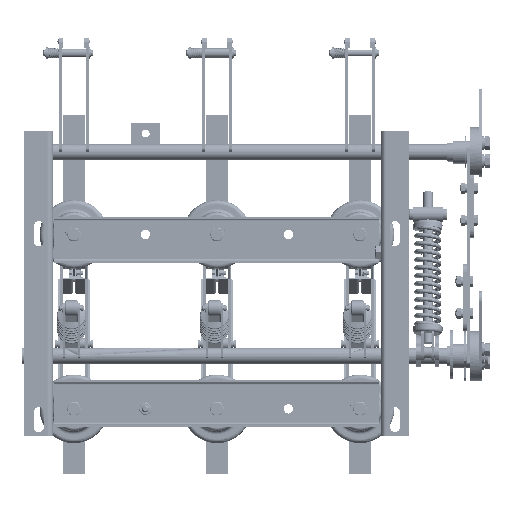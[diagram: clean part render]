
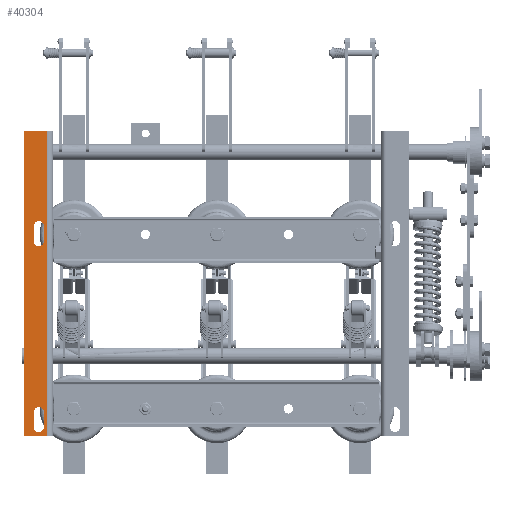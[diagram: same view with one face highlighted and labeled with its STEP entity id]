
A CAD part, front view. The second image highlights one B-rep face of the part: STEP entity #40304.
In plain terms, the highlighted planar face has unit normal (0, -1, 0).
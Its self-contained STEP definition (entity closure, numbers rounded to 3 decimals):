
#1997 = ORIENTED_EDGE ( 'NONE', *, *, #12046, .T. ) ;
#2549 = AXIS2_PLACEMENT_3D ( 'NONE', #138480, #48820, #153598 ) ;
#7519 = VECTOR ( 'NONE', #44383, 1000. ) ;
#9610 = CARTESIAN_POINT ( 'NONE',  ( -104.6, 0.004, -153.1 ) ) ;
#10526 = DIRECTION ( 'NONE',  ( 0., 0., 1. ) ) ;
#10843 = VECTOR ( 'NONE', #76062, 1000. ) ;
#10917 = DIRECTION ( 'NONE',  ( 0., 0., 1. ) ) ;
#12046 = EDGE_CURVE ( 'NONE', #80243, #89308, #162239, .T. ) ;
#12184 = EDGE_CURVE ( 'NONE', #64827, #122470, #183370, .T. ) ;
#13726 = ORIENTED_EDGE ( 'NONE', *, *, #152129, .T. ) ;
#14241 = AXIS2_PLACEMENT_3D ( 'NONE', #118959, #29276, #134088 ) ;
#15567 = LINE ( 'NONE', #16376, #10843 ) ;
#16376 = CARTESIAN_POINT ( 'NONE',  ( -236.999, 0.004, 274. ) ) ;
#18518 = EDGE_CURVE ( 'NONE', #144727, #115698, #187757, .T. ) ;
#18857 = VERTEX_POINT ( 'NONE', #50163 ) ;
#19418 = CARTESIAN_POINT ( 'NONE',  ( -255.999, 0.004, -140.5 ) ) ;
#20605 = DIRECTION ( 'NONE',  ( 0., 1., 0. ) ) ;
#21325 = DIRECTION ( 'NONE',  ( 0., 1., 0. ) ) ;
#24078 = FACE_BOUND ( 'NONE', #62127, .T. ) ;
#25157 = ORIENTED_EDGE ( 'NONE', *, *, #192260, .T. ) ;
#27502 = AXIS2_PLACEMENT_3D ( 'NONE', #58415, #163124, #73485 ) ;
#27683 = CIRCLE ( 'NONE', #27502, 7. ) ;
#29018 = ORIENTED_EDGE ( 'NONE', *, *, #102109, .T. ) ;
#29276 = DIRECTION ( 'NONE',  ( 0., -1., 0. ) ) ;
#29316 = DIRECTION ( 'NONE',  ( 0., 0., -1. ) ) ;
#33651 = ORIENTED_EDGE ( 'NONE', *, *, #107412, .T. ) ;
#36954 = EDGE_CURVE ( 'NONE', #89308, #44740, #27683, .T. ) ;
#37198 = ORIENTED_EDGE ( 'NONE', *, *, #36954, .T. ) ;
#39129 = VERTEX_POINT ( 'NONE', #89389 ) ;
#40304 = ADVANCED_FACE ( 'NONE', ( #24078, #178838, #138952 ), #133418, .T. ) ;
#41809 = VECTOR ( 'NONE', #194672, 1000. ) ;
#44383 = DIRECTION ( 'NONE',  ( 0., 0., 1. ) ) ;
#44740 = VERTEX_POINT ( 'NONE', #152781 ) ;
#46411 = EDGE_LOOP ( 'NONE', ( #48928, #135551, #95734, #144766 ) ) ;
#47788 = LINE ( 'NONE', #53162, #122711 ) ;
#48820 = DIRECTION ( 'NONE',  ( 0., 1., 0. ) ) ;
#48928 = ORIENTED_EDGE ( 'NONE', *, *, #12184, .T. ) ;
#50163 = CARTESIAN_POINT ( 'NONE',  ( -241.999, 0.004, 140.5 ) ) ;
#53162 = CARTESIAN_POINT ( 'NONE',  ( -241.999, 0.004, -20. ) ) ;
#56863 = VERTEX_POINT ( 'NONE', #139527 ) ;
#57785 = VECTOR ( 'NONE', #29316, 1000. ) ;
#58415 = CARTESIAN_POINT ( 'NONE',  ( -248.999, 0.004, -119.5 ) ) ;
#58852 = LINE ( 'NONE', #175634, #138446 ) ;
#62127 = EDGE_LOOP ( 'NONE', ( #29018, #1997, #37198, #13726 ) ) ;
#64827 = VERTEX_POINT ( 'NONE', #82914 ) ;
#69551 = CARTESIAN_POINT ( 'NONE',  ( -255.999, 0.004, 119.5 ) ) ;
#70371 = LINE ( 'NONE', #174726, #110116 ) ;
#72873 = VECTOR ( 'NONE', #114465, 1000. ) ;
#73485 = DIRECTION ( 'NONE',  ( -1., 0., 0. ) ) ;
#76062 = DIRECTION ( 'NONE',  ( -1., 0., 0. ) ) ;
#80243 = VERTEX_POINT ( 'NONE', #19418 ) ;
#82914 = CARTESIAN_POINT ( 'NONE',  ( -241.999, 0.004, 119.5 ) ) ;
#85215 = ORIENTED_EDGE ( 'NONE', *, *, #18518, .T. ) ;
#89308 = VERTEX_POINT ( 'NONE', #172771 ) ;
#89389 = CARTESIAN_POINT ( 'NONE',  ( -255.999, 0.004, 140.5 ) ) ;
#89403 = EDGE_CURVE ( 'NONE', #144727, #118094, #70371, .T. ) ;
#95734 = ORIENTED_EDGE ( 'NONE', *, *, #172346, .T. ) ;
#98948 = DIRECTION ( 'NONE',  ( 0., 0., -1. ) ) ;
#102109 = EDGE_CURVE ( 'NONE', #56863, #80243, #152697, .T. ) ;
#107412 = EDGE_CURVE ( 'NONE', #147278, #118094, #15567, .T. ) ;
#108650 = ORIENTED_EDGE ( 'NONE', *, *, #89403, .F. ) ;
#110116 = VECTOR ( 'NONE', #10917, 1000. ) ;
#110358 = CARTESIAN_POINT ( 'NONE',  ( -248.999, 0.004, -140.5 ) ) ;
#111105 = CARTESIAN_POINT ( 'NONE',  ( -248.999, 0.004, 119.5 ) ) ;
#111309 = CARTESIAN_POINT ( 'NONE',  ( -269.202, 0.004, -153.1 ) ) ;
#111994 = CARTESIAN_POINT ( 'NONE',  ( -269.202, 0.004, 274. ) ) ;
#114465 = DIRECTION ( 'NONE',  ( 1., 0., 0. ) ) ;
#115698 = VERTEX_POINT ( 'NONE', #160216 ) ;
#118094 = VERTEX_POINT ( 'NONE', #111994 ) ;
#118959 = CARTESIAN_POINT ( 'NONE',  ( -217.702, 0.004, -20. ) ) ;
#122470 = VERTEX_POINT ( 'NONE', #69551 ) ;
#122711 = VECTOR ( 'NONE', #98948, 1000. ) ;
#125404 = DIRECTION ( 'NONE',  ( -1., 0., 0. ) ) ;
#126154 = DIRECTION ( 'NONE',  ( -1., 0., 0. ) ) ;
#133418 = PLANE ( 'NONE',  #14241 ) ;
#134088 = DIRECTION ( 'NONE',  ( 0., 0., -1. ) ) ;
#135551 = ORIENTED_EDGE ( 'NONE', *, *, #149540, .T. ) ;
#136885 = EDGE_LOOP ( 'NONE', ( #25157, #33651, #108650, #85215 ) ) ;
#138446 = VECTOR ( 'NONE', #10526, 1000. ) ;
#138480 = CARTESIAN_POINT ( 'NONE',  ( -248.999, 0.004, 140.5 ) ) ;
#138952 = FACE_OUTER_BOUND ( 'NONE', #136885, .T. ) ;
#139527 = CARTESIAN_POINT ( 'NONE',  ( -241.999, 0.004, -140.5 ) ) ;
#144727 = VERTEX_POINT ( 'NONE', #111309 ) ;
#144766 = ORIENTED_EDGE ( 'NONE', *, *, #157398, .T. ) ;
#147278 = VERTEX_POINT ( 'NONE', #159464 ) ;
#149219 = CARTESIAN_POINT ( 'NONE',  ( -255.999, 0.004, -20. ) ) ;
#149540 = EDGE_CURVE ( 'NONE', #122470, #39129, #58852, .T. ) ;
#152129 = EDGE_CURVE ( 'NONE', #44740, #56863, #47788, .T. ) ;
#152697 = CIRCLE ( 'NONE', #189717, 7. ) ;
#152781 = CARTESIAN_POINT ( 'NONE',  ( -241.999, 0.004, -119.5 ) ) ;
#153598 = DIRECTION ( 'NONE',  ( -1., 0., 0. ) ) ;
#156642 = LINE ( 'NONE', #179516, #41809 ) ;
#157398 = EDGE_CURVE ( 'NONE', #18857, #64827, #177270, .T. ) ;
#159464 = CARTESIAN_POINT ( 'NONE',  ( -236.999, 0.004, 274. ) ) ;
#160216 = CARTESIAN_POINT ( 'NONE',  ( -236.999, 0.004, -153.1 ) ) ;
#162239 = LINE ( 'NONE', #149219, #7519 ) ;
#162254 = CARTESIAN_POINT ( 'NONE',  ( -241.999, 0.004, -20. ) ) ;
#163124 = DIRECTION ( 'NONE',  ( 0., 1., 0. ) ) ;
#169585 = CIRCLE ( 'NONE', #2549, 7. ) ;
#172346 = EDGE_CURVE ( 'NONE', #39129, #18857, #169585, .T. ) ;
#172771 = CARTESIAN_POINT ( 'NONE',  ( -255.999, 0.004, -119.5 ) ) ;
#174726 = CARTESIAN_POINT ( 'NONE',  ( -269.202, 0.004, -225. ) ) ;
#175634 = CARTESIAN_POINT ( 'NONE',  ( -255.999, 0.004, -20. ) ) ;
#177270 = LINE ( 'NONE', #162254, #57785 ) ;
#178838 = FACE_BOUND ( 'NONE', #46411, .T. ) ;
#179516 = CARTESIAN_POINT ( 'NONE',  ( -236.999, 0.004, -225. ) ) ;
#183370 = CIRCLE ( 'NONE', #187097, 7. ) ;
#187097 = AXIS2_PLACEMENT_3D ( 'NONE', #111105, #21325, #126154 ) ;
#187757 = LINE ( 'NONE', #9610, #72873 ) ;
#189717 = AXIS2_PLACEMENT_3D ( 'NONE', #110358, #20605, #125404 ) ;
#192260 = EDGE_CURVE ( 'NONE', #115698, #147278, #156642, .T. ) ;
#194672 = DIRECTION ( 'NONE',  ( 0., 0., 1. ) ) ;
